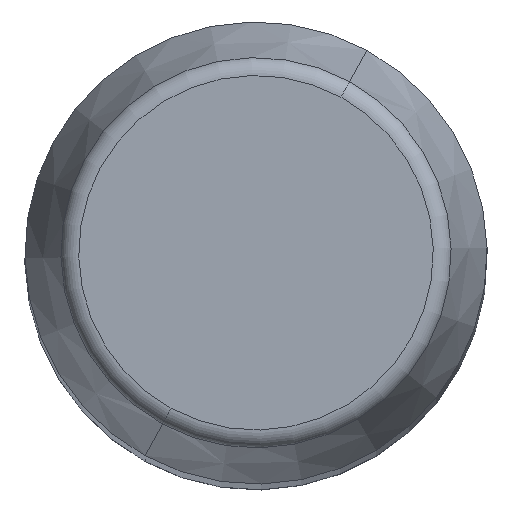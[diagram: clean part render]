
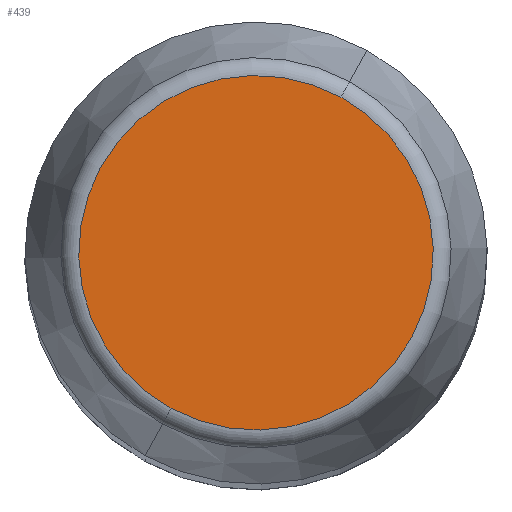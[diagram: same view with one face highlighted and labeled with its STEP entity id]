
A CAD part, top view. The second image highlights one B-rep face of the part: STEP entity #439.
In plain terms, the highlighted planar face has unit normal (0, 0, 1).
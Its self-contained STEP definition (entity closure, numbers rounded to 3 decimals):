
#391=CARTESIAN_POINT('Vertex',(-4.597,-8.415,200.)) ;
#394=CARTESIAN_POINT('Axis2P3D Location',(0.,0.,200.)) ;
#398=CARTESIAN_POINT('Vertex',(4.597,8.415,200.)) ;
#418=CARTESIAN_POINT('Axis2P3D Location',(0.,0.,200.)) ;
#430=CARTESIAN_POINT('Axis2P3D Location',(0.,9.589,200.)) ;
#395=DIRECTION('Axis2P3D Direction',(0.,0.,-1.)) ;
#419=DIRECTION('Axis2P3D Direction',(0.,0.,-1.)) ;
#431=DIRECTION('Axis2P3D Direction',(0.,0.,-1.)) ;
#432=DIRECTION('Axis2P3D XDirection',(1.,0.,0.)) ;
#396=AXIS2_PLACEMENT_3D('Circle Axis2P3D',#394,#395,$) ;
#420=AXIS2_PLACEMENT_3D('Circle Axis2P3D',#418,#419,$) ;
#433=AXIS2_PLACEMENT_3D('Plane Axis2P3D',#430,#431,#432) ;
#436=ORIENTED_EDGE('',*,*,#422,.F.) ;
#437=ORIENTED_EDGE('',*,*,#400,.F.) ;
#439=ADVANCED_FACE('PartBody',(#438),#434,.F.) ;
#397=CIRCLE('generated circle',#396,9.589) ;
#421=CIRCLE('generated circle',#420,9.589) ;
#400=EDGE_CURVE('',#392,#399,#397,.T.) ;
#422=EDGE_CURVE('',#399,#392,#421,.T.) ;
#435=EDGE_LOOP('',(#436,#437)) ;
#438=FACE_OUTER_BOUND('',#435,.T.) ;
#434=PLANE('Plane',#433) ;
#392=VERTEX_POINT('',#391) ;
#399=VERTEX_POINT('',#398) ;
